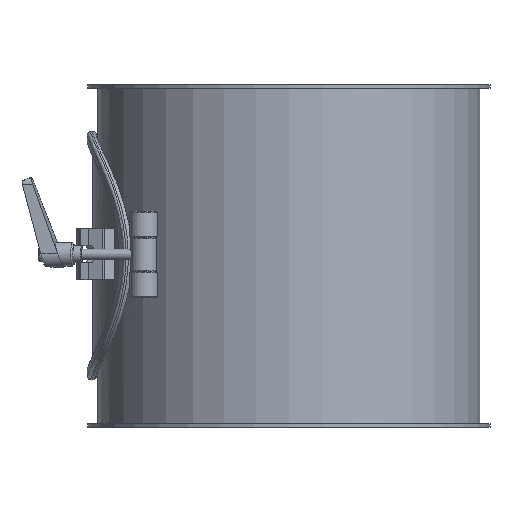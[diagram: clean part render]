
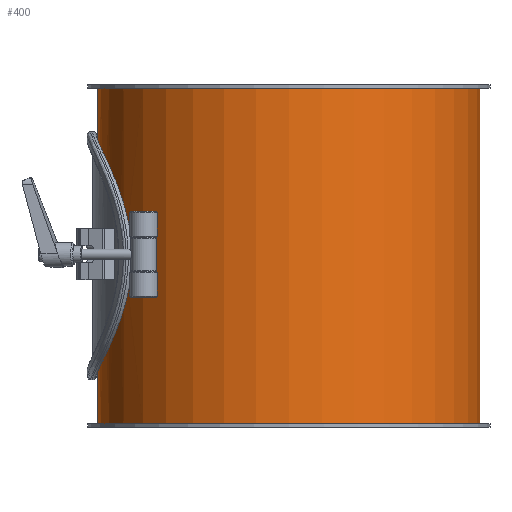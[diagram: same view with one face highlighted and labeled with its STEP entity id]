
A CAD part, front view. The second image highlights one B-rep face of the part: STEP entity #400.
In plain terms, the highlighted cylindrical face has radius 111.5 mm (diameter 223 mm), a full revolution.
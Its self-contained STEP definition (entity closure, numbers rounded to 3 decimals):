
#185=CARTESIAN_POINT('',(-95.53,-57.5,100.0));
#186=VERTEX_POINT('',#185);
#187=CARTESIAN_POINT('',(-95.53,-57.5,100.0));
#188=CARTESIAN_POINT('',(-95.53,-57.5,96.305));
#189=CARTESIAN_POINT('',(-95.751,-57.138,92.514));
#190=CARTESIAN_POINT('',(-96.625,-55.647,85.025));
#191=CARTESIAN_POINT('',(-97.277,-54.518,81.327));
#192=CARTESIAN_POINT('',(-98.874,-51.566,74.273));
#193=CARTESIAN_POINT('',(-99.818,-49.74,70.91));
#194=CARTESIAN_POINT('',(-101.8,-45.546,64.703));
#195=CARTESIAN_POINT('',(-102.836,-43.177,61.859));
#196=CARTESIAN_POINT('',(-104.806,-38.149,56.831));
#197=CARTESIAN_POINT('',(-105.811,-35.309,54.463));
#198=CARTESIAN_POINT('',(-107.684,-29.1,50.266));
#199=CARTESIAN_POINT('',(-108.55,-25.731,48.436));
#200=CARTESIAN_POINT('',(-109.986,-18.666,45.479));
#201=CARTESIAN_POINT('',(-110.556,-14.962,44.35));
#202=CARTESIAN_POINT('',(-111.313,-7.471,42.86));
#203=CARTESIAN_POINT('',(-111.5,-3.683,42.5));
#204=CARTESIAN_POINT('',(-111.5,3.683,42.5));
#205=CARTESIAN_POINT('',(-111.313,7.471,42.86));
#206=CARTESIAN_POINT('',(-110.556,14.962,44.35));
#207=CARTESIAN_POINT('',(-109.986,18.666,45.479));
#208=CARTESIAN_POINT('',(-108.55,25.731,48.436));
#209=CARTESIAN_POINT('',(-107.684,29.1,50.266));
#210=CARTESIAN_POINT('',(-105.811,35.309,54.463));
#211=CARTESIAN_POINT('',(-104.806,38.149,56.831));
#212=CARTESIAN_POINT('',(-102.836,43.177,61.859));
#213=CARTESIAN_POINT('',(-101.8,45.546,64.703));
#214=CARTESIAN_POINT('',(-99.818,49.74,70.91));
#215=CARTESIAN_POINT('',(-98.874,51.566,74.273));
#216=CARTESIAN_POINT('',(-97.277,54.518,81.327));
#217=CARTESIAN_POINT('',(-96.625,55.647,85.025));
#218=CARTESIAN_POINT('',(-95.751,57.138,92.514));
#219=CARTESIAN_POINT('',(-95.53,57.5,96.305));
#220=CARTESIAN_POINT('',(-95.53,57.5,103.695));
#221=CARTESIAN_POINT('',(-95.751,57.138,107.486));
#222=CARTESIAN_POINT('',(-96.625,55.647,114.975));
#223=CARTESIAN_POINT('',(-97.277,54.518,118.673));
#224=CARTESIAN_POINT('',(-98.874,51.566,125.727));
#225=CARTESIAN_POINT('',(-99.818,49.74,129.09));
#226=CARTESIAN_POINT('',(-101.8,45.546,135.297));
#227=CARTESIAN_POINT('',(-102.836,43.177,138.141));
#228=CARTESIAN_POINT('',(-104.806,38.149,143.169));
#229=CARTESIAN_POINT('',(-105.811,35.309,145.537));
#230=CARTESIAN_POINT('',(-107.684,29.1,149.734));
#231=CARTESIAN_POINT('',(-108.55,25.731,151.564));
#232=CARTESIAN_POINT('',(-109.986,18.666,154.521));
#233=CARTESIAN_POINT('',(-110.556,14.962,155.65));
#234=CARTESIAN_POINT('',(-111.313,7.471,157.14));
#235=CARTESIAN_POINT('',(-111.5,3.683,157.5));
#236=CARTESIAN_POINT('',(-111.5,-3.683,157.5));
#237=CARTESIAN_POINT('',(-111.313,-7.471,157.14));
#238=CARTESIAN_POINT('',(-110.556,-14.962,155.65));
#239=CARTESIAN_POINT('',(-109.986,-18.666,154.521));
#240=CARTESIAN_POINT('',(-108.55,-25.731,151.564));
#241=CARTESIAN_POINT('',(-107.684,-29.1,149.734));
#242=CARTESIAN_POINT('',(-105.811,-35.309,145.537));
#243=CARTESIAN_POINT('',(-104.806,-38.149,143.169));
#244=CARTESIAN_POINT('',(-102.836,-43.177,138.141));
#245=CARTESIAN_POINT('',(-101.8,-45.546,135.297));
#246=CARTESIAN_POINT('',(-99.818,-49.74,129.09));
#247=CARTESIAN_POINT('',(-98.874,-51.566,125.727));
#248=CARTESIAN_POINT('',(-97.277,-54.518,118.673));
#249=CARTESIAN_POINT('',(-96.625,-55.647,114.975));
#250=CARTESIAN_POINT('',(-95.751,-57.138,107.486));
#251=CARTESIAN_POINT('',(-95.53,-57.5,103.695));
#252=CARTESIAN_POINT('',(-95.53,-57.5,100.));
#253=B_SPLINE_CURVE_WITH_KNOTS('',3,(#187,#188,#189,#190,#191,#192,#193,#194,#195,#196,#197,#198,#199,#200,#201,#202,#203,#204,#205,#206,#207,#208,#209,#210,#211,#212,#213,#214,#215,#216,#217,#218,#219,#220,#221,#222,#223,#224,#225,#226,#227,#228,#229,#230,#231,#232,#233,#234,#235,#236,#237,#238,#239,#240,#241,#242,#243,#244,#245,#246,#247,#248,#249,#250,#251,#252),.UNSPECIFIED.,.T.,.U.,(4,2,2,2,2,2,2,2,2,2,2,2,2,2,2,2,2,2,2,2,2,2,2,2,2,2,2,2,2,2,2,2,4),(0.0,1.109,2.217,3.326,4.434,5.539,6.644,7.749,8.854,9.959,11.064,12.169,13.274,14.383,15.491,16.6,17.708,18.817,19.925,21.034,22.142,23.247,24.352,25.457,26.562,27.667,28.773,29.878,30.983,32.091,33.2,34.308,35.417),.UNSPECIFIED.);
#254=EDGE_CURVE('',#186,#186,#253,.T.);
#295=CARTESIAN_POINT('',(111.5,0.,198.0));
#296=VERTEX_POINT('',#295);
#297=CARTESIAN_POINT('',(0.0,0.0,198.0));
#298=DIRECTION('',(0.0,0.0,-1.0));
#299=DIRECTION('',(-1.0,0.0,0.0));
#300=AXIS2_PLACEMENT_3D('',#297,#298,#299);
#301=CIRCLE('',#300,111.5);
#302=EDGE_CURVE('',#296,#296,#301,.T.);
#343=CARTESIAN_POINT('',(-111.5,0.,2.0));
#344=VERTEX_POINT('',#343);
#345=CARTESIAN_POINT('',(0.0,0.0,2.0));
#346=DIRECTION('',(0.0,0.0,1.0));
#347=DIRECTION('',(-1.0,0.0,0.0));
#348=AXIS2_PLACEMENT_3D('',#345,#346,#347);
#349=CIRCLE('',#348,111.5);
#350=EDGE_CURVE('',#344,#344,#349,.T.);
#386=CARTESIAN_POINT('',(0.0,0.0,0.0));
#387=DIRECTION('',(0.0,0.0,1.0));
#388=DIRECTION('',(-1.0,0.0,0.0));
#389=AXIS2_PLACEMENT_3D('',#386,#387,#388);
#390=CYLINDRICAL_SURFACE('',#389,111.5);
#391=ORIENTED_EDGE('',*,*,#302,.T.);
#392=EDGE_LOOP('',(#391));
#393=FACE_OUTER_BOUND('',#392,.T.);
#394=ORIENTED_EDGE('',*,*,#254,.T.);
#395=EDGE_LOOP('',(#394));
#396=FACE_BOUND('',#395,.T.);
#397=ORIENTED_EDGE('',*,*,#350,.T.);
#398=EDGE_LOOP('',(#397));
#399=FACE_BOUND('',#398,.T.);
#400=ADVANCED_FACE('',(#393,#396,#399),#390,.T.);
